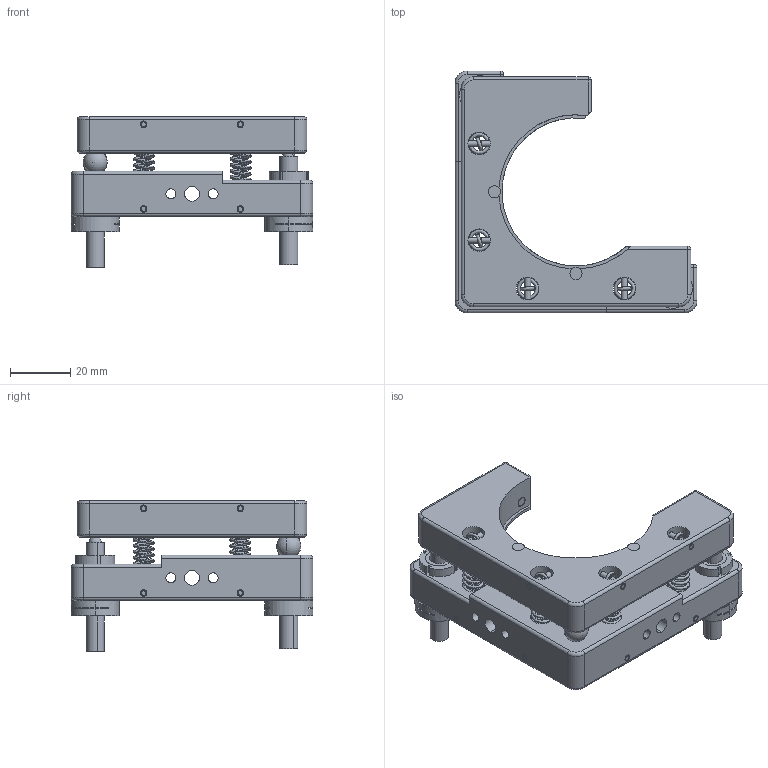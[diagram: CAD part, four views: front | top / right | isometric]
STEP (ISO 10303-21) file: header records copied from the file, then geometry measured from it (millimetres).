
FILE_DESCRIPTION (( 'STEP AP203' ), '1' );
FILE_NAME ('7MM1650謗峎覃淕噩殤.STEP', '2019-10-22T06:08:40', ( '' ), ( '' ), 'SwSTEP 2.0', 'SolidWorks 2014', '' );
FILE_SCHEMA (( 'CONFIG_CONTROL_DESIGN' ));
Length unit declared in the file: millimetre
Products named in the file (1): 7MM1650謗峎覃淕噩殤
Bounding box: 80 x 80 x 49.76 mm (x, y, z)
Surface area: 28816.6 mm2 (no closed solid volume)
Topology: 0 solids, 40 shells, 381 faces, 1044 edges, 652 vertices
Faces by surface type: cylinder 167, plane 100, torus 44, bspline 32, cone 24, sphere 14
Entity records: 23585 total; most frequent: CARTESIAN_POINT 14062, DIRECTION 2105, ORIENTED_EDGE 1786, EDGE_CURVE 1001, AXIS2_PLACEMENT_3D 848, VERTEX_POINT 643, CIRCLE 498, EDGE_LOOP 447
